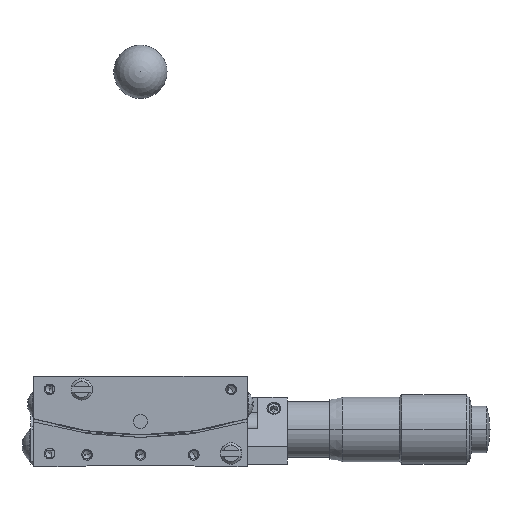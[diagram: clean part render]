
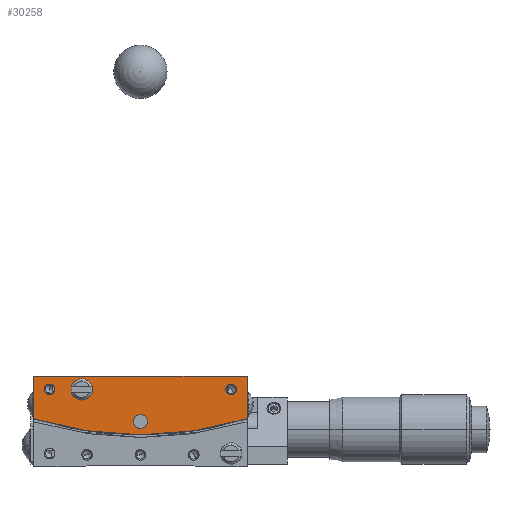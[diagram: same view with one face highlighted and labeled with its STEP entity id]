
A CAD part, front view. The second image highlights one B-rep face of the part: STEP entity #30258.
In plain terms, the highlighted planar face has unit normal (0, -1, 0) as drawn and (-1, 0, 0) by its records, which use the part's own axes.
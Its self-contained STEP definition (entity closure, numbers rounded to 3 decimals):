
#1043 = CARTESIAN_POINT ( 'NONE',  ( -20., 20., -7.992 ) ) ;
#1044 = CARTESIAN_POINT ( 'NONE',  ( -20., -20., -7.992 ) ) ;
#1045 = DIRECTION ( 'NONE',  ( 0., -1., 0. ) ) ;
#1046 = DIRECTION ( 'NONE',  ( 1., 0., 0. ) ) ;
#1047 = CARTESIAN_POINT ( 'NONE',  ( -20., 0., 57. ) ) ;
#1048 = AXIS2_PLACEMENT_3D ( 'NONE', #1047, #1046, #1045 ) ;
#1049 = CIRCLE ( 'NONE', #1048, 68. ) ;
#1092 = DIRECTION ( 'NONE',  ( 0., 0., 1. ) ) ;
#1093 = VECTOR ( 'NONE', #1092, 1000. ) ;
#1094 = CARTESIAN_POINT ( 'NONE',  ( -20., 20., -7.992 ) ) ;
#1095 = LINE ( 'NONE', #1094, #1093 ) ;
#1096 = CARTESIAN_POINT ( 'NONE',  ( -20., 20., 0. ) ) ;
#1097 = DIRECTION ( 'NONE',  ( 0., -1., 0. ) ) ;
#1098 = VECTOR ( 'NONE', #1097, 1000. ) ;
#1099 = CARTESIAN_POINT ( 'NONE',  ( -20., 20., 0. ) ) ;
#1100 = LINE ( 'NONE', #1099, #1098 ) ;
#1101 = CARTESIAN_POINT ( 'NONE',  ( -20., -20., 0. ) ) ;
#1102 = DIRECTION ( 'NONE',  ( 0., 0., -1. ) ) ;
#1103 = VECTOR ( 'NONE', #1102, 1000. ) ;
#1104 = CARTESIAN_POINT ( 'NONE',  ( -20., -20., 0. ) ) ;
#1105 = LINE ( 'NONE', #1104, #1103 ) ;
#1123 = DIRECTION ( 'NONE',  ( 0., -0.625, -0.781 ) ) ;
#1124 = DIRECTION ( 'NONE',  ( -1., 0., 0. ) ) ;
#1125 = AXIS2_PLACEMENT_3D ( 'NONE', #1130, #1124, #1123 ) ;
#1126 = CIRCLE ( 'NONE', #1125, 1. ) ;
#1127 = DIRECTION ( 'NONE',  ( 0., -1., 0. ) ) ;
#1128 = DIRECTION ( 'NONE',  ( 1., 0., 0. ) ) ;
#1129 = CARTESIAN_POINT ( 'NONE',  ( -20., 0., 57. ) ) ;
#1130 = CARTESIAN_POINT ( 'NONE',  ( -20., -17., -2.5 ) ) ;
#1131 = AXIS2_PLACEMENT_3D ( 'NONE', #1129, #1128, #1127 ) ;
#1132 = PLANE ( 'NONE',  #1131 ) ;
#1133 = FACE_BOUND ( 'NONE', #30314, .T. ) ;
#1134 = FACE_BOUND ( 'NONE', #30310, .T. ) ;
#1135 = FACE_BOUND ( 'NONE', #30249, .T. ) ;
#1136 = FACE_OUTER_BOUND ( 'NONE', #30236, .T. ) ;
#1137 = FACE_BOUND ( 'NONE', #30259, .T. ) ;
#1207 = DIRECTION ( 'NONE',  ( 0., 0., -1. ) ) ;
#1208 = DIRECTION ( 'NONE',  ( -1., 0., 0. ) ) ;
#1209 = CARTESIAN_POINT ( 'NONE',  ( -20., 11., -2.5 ) ) ;
#1210 = AXIS2_PLACEMENT_3D ( 'NONE', #1209, #1208, #1207 ) ;
#1211 = CIRCLE ( 'NONE', #1210, 2. ) ;
#1212 = DIRECTION ( 'NONE',  ( 0., 0.116, -0.993 ) ) ;
#1213 = DIRECTION ( 'NONE',  ( -1., 0., 0. ) ) ;
#1214 = CARTESIAN_POINT ( 'NONE',  ( -20., 0., -8.5 ) ) ;
#1215 = AXIS2_PLACEMENT_3D ( 'NONE', #1214, #1213, #1212 ) ;
#1216 = CIRCLE ( 'NONE', #1215, 1.3 ) ;
#1217 = DIRECTION ( 'NONE',  ( 0., 0.311, -0.95 ) ) ;
#1218 = DIRECTION ( 'NONE',  ( -1., 0., 0. ) ) ;
#1219 = CARTESIAN_POINT ( 'NONE',  ( -20., 17., -2.5 ) ) ;
#1220 = AXIS2_PLACEMENT_3D ( 'NONE', #1219, #1218, #1217 ) ;
#1223 = CIRCLE ( 'NONE', #1220, 1. ) ;
#28977 = VERTEX_POINT ( 'NONE', #46525 ) ;
#28979 = EDGE_CURVE ( 'NONE', #28977, #28980, #46524, .T. ) ;
#28980 = VERTEX_POINT ( 'NONE', #46582 ) ;
#29731 = VERTEX_POINT ( 'NONE', #48192 ) ;
#29732 = EDGE_CURVE ( 'NONE', #29761, #29733, #48191, .T. ) ;
#29733 = VERTEX_POINT ( 'NONE', #48186 ) ;
#29744 = VERTEX_POINT ( 'NONE', #48228 ) ;
#29746 = EDGE_CURVE ( 'NONE', #29744, #29747, #48227, .T. ) ;
#29747 = VERTEX_POINT ( 'NONE', #48222 ) ;
#29761 = VERTEX_POINT ( 'NONE', #48257 ) ;
#29812 = VERTEX_POINT ( 'NONE', #48329 ) ;
#29814 = EDGE_CURVE ( 'NONE', #29812, #29731, #48387, .T. ) ;
#30235 = ORIENTED_EDGE ( 'NONE', *, *, #29814, .F. ) ;
#30236 = EDGE_LOOP ( 'NONE', ( #30237, #30241, #30244, #30247 ) ) ;
#30237 = ORIENTED_EDGE ( 'NONE', *, *, #30238, .F. ) ;
#30238 = EDGE_CURVE ( 'NONE', #30239, #30240, #1049, .T. ) ;
#30239 = VERTEX_POINT ( 'NONE', #1044 ) ;
#30240 = VERTEX_POINT ( 'NONE', #1043 ) ;
#30241 = ORIENTED_EDGE ( 'NONE', *, *, #30242, .F. ) ;
#30242 = EDGE_CURVE ( 'NONE', #30243, #30239, #1105, .T. ) ;
#30243 = VERTEX_POINT ( 'NONE', #1101 ) ;
#30244 = ORIENTED_EDGE ( 'NONE', *, *, #30245, .F. ) ;
#30245 = EDGE_CURVE ( 'NONE', #30246, #30243, #1100, .T. ) ;
#30246 = VERTEX_POINT ( 'NONE', #1096 ) ;
#30247 = ORIENTED_EDGE ( 'NONE', *, *, #30248, .F. ) ;
#30248 = EDGE_CURVE ( 'NONE', #30240, #30246, #1095, .T. ) ;
#30249 = EDGE_LOOP ( 'NONE', ( #30307, #30309 ) ) ;
#30258 = ADVANCED_FACE ( 'NONE', ( #1137, #1136, #1135, #1134, #1133 ), #1132, .F. ) ;
#30259 = EDGE_LOOP ( 'NONE', ( #30260, #30235 ) ) ;
#30260 = ORIENTED_EDGE ( 'NONE', *, *, #30261, .F. ) ;
#30261 = EDGE_CURVE ( 'NONE', #29731, #29812, #1126, .T. ) ;
#30307 = ORIENTED_EDGE ( 'NONE', *, *, #30308, .F. ) ;
#30308 = EDGE_CURVE ( 'NONE', #29747, #29744, #1223, .T. ) ;
#30309 = ORIENTED_EDGE ( 'NONE', *, *, #29746, .F. ) ;
#30310 = EDGE_LOOP ( 'NONE', ( #30311, #30313 ) ) ;
#30311 = ORIENTED_EDGE ( 'NONE', *, *, #30312, .F. ) ;
#30312 = EDGE_CURVE ( 'NONE', #29733, #29761, #1216, .T. ) ;
#30313 = ORIENTED_EDGE ( 'NONE', *, *, #29732, .F. ) ;
#30314 = EDGE_LOOP ( 'NONE', ( #30315, #30317 ) ) ;
#30315 = ORIENTED_EDGE ( 'NONE', *, *, #30316, .F. ) ;
#30316 = EDGE_CURVE ( 'NONE', #28980, #28977, #1211, .T. ) ;
#30317 = ORIENTED_EDGE ( 'NONE', *, *, #28979, .F. ) ;
#46521 = DIRECTION ( 'NONE',  ( -1., 0., 0. ) ) ;
#46522 = CARTESIAN_POINT ( 'NONE',  ( -20., 11., -2.5 ) ) ;
#46523 = AXIS2_PLACEMENT_3D ( 'NONE', #46522, #46521, #46583 ) ;
#46524 = CIRCLE ( 'NONE', #46523, 2. ) ;
#46525 = CARTESIAN_POINT ( 'NONE',  ( -20., 11., -4.5 ) ) ;
#46582 = CARTESIAN_POINT ( 'NONE',  ( -20., 11., -0.5 ) ) ;
#46583 = DIRECTION ( 'NONE',  ( 0., 0., -1. ) ) ;
#48186 = CARTESIAN_POINT ( 'NONE',  ( -20., 0.15, -9.791 ) ) ;
#48187 = DIRECTION ( 'NONE',  ( 0., 0.116, -0.993 ) ) ;
#48188 = DIRECTION ( 'NONE',  ( -1., 0., 0. ) ) ;
#48189 = CARTESIAN_POINT ( 'NONE',  ( -20., 0., -8.5 ) ) ;
#48190 = AXIS2_PLACEMENT_3D ( 'NONE', #48189, #48188, #48187 ) ;
#48191 = CIRCLE ( 'NONE', #48190, 1.3 ) ;
#48192 = CARTESIAN_POINT ( 'NONE',  ( -20., -17.625, -3.281 ) ) ;
#48222 = CARTESIAN_POINT ( 'NONE',  ( -20., 17.311, -3.45 ) ) ;
#48223 = DIRECTION ( 'NONE',  ( 0., 0.311, -0.95 ) ) ;
#48224 = DIRECTION ( 'NONE',  ( -1., 0., 0. ) ) ;
#48225 = CARTESIAN_POINT ( 'NONE',  ( -20., 17., -2.5 ) ) ;
#48226 = AXIS2_PLACEMENT_3D ( 'NONE', #48225, #48224, #48223 ) ;
#48227 = CIRCLE ( 'NONE', #48226, 1. ) ;
#48228 = CARTESIAN_POINT ( 'NONE',  ( -20., 16.689, -1.55 ) ) ;
#48257 = CARTESIAN_POINT ( 'NONE',  ( -20., -0.15, -7.209 ) ) ;
#48328 = CARTESIAN_POINT ( 'NONE',  ( -20., -17., -2.5 ) ) ;
#48329 = CARTESIAN_POINT ( 'NONE',  ( -20., -16.375, -1.719 ) ) ;
#48384 = DIRECTION ( 'NONE',  ( 0., -0.625, -0.781 ) ) ;
#48385 = DIRECTION ( 'NONE',  ( -1., 0., 0. ) ) ;
#48386 = AXIS2_PLACEMENT_3D ( 'NONE', #48328, #48385, #48384 ) ;
#48387 = CIRCLE ( 'NONE', #48386, 1. ) ;
